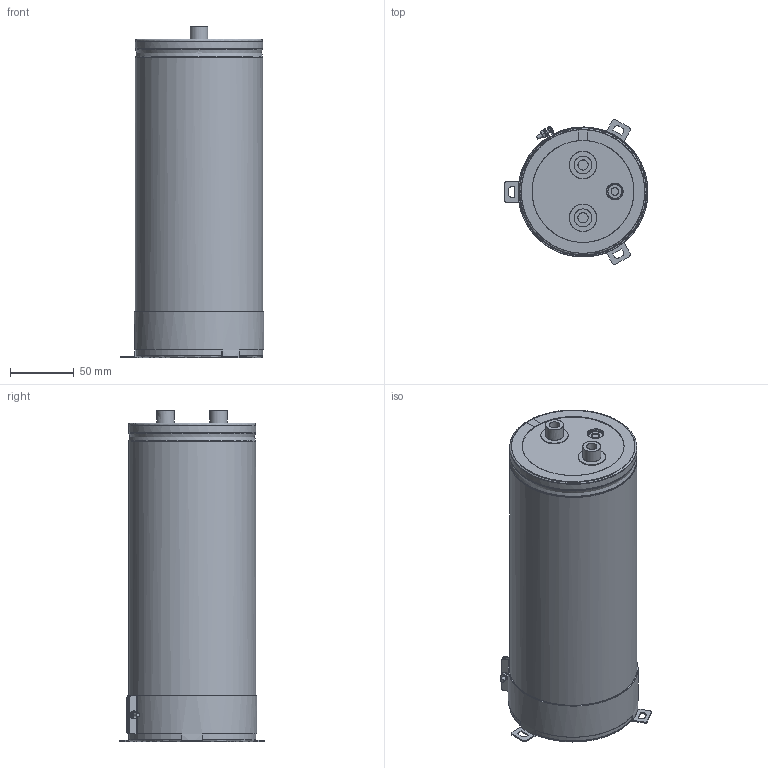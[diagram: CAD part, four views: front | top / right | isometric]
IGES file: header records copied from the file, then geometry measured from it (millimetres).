
Start section: JAMA-IS VERSION  1.0
Bounding box: 113 x 113.92 x 260 mm (x, y, z)
Surface area: 284964.3 mm2 (no closed solid volume)
Topology: 0 solids, 0 shells, 257 faces, 4488 edges, 4459 vertices
Faces by surface type: bspline 257
